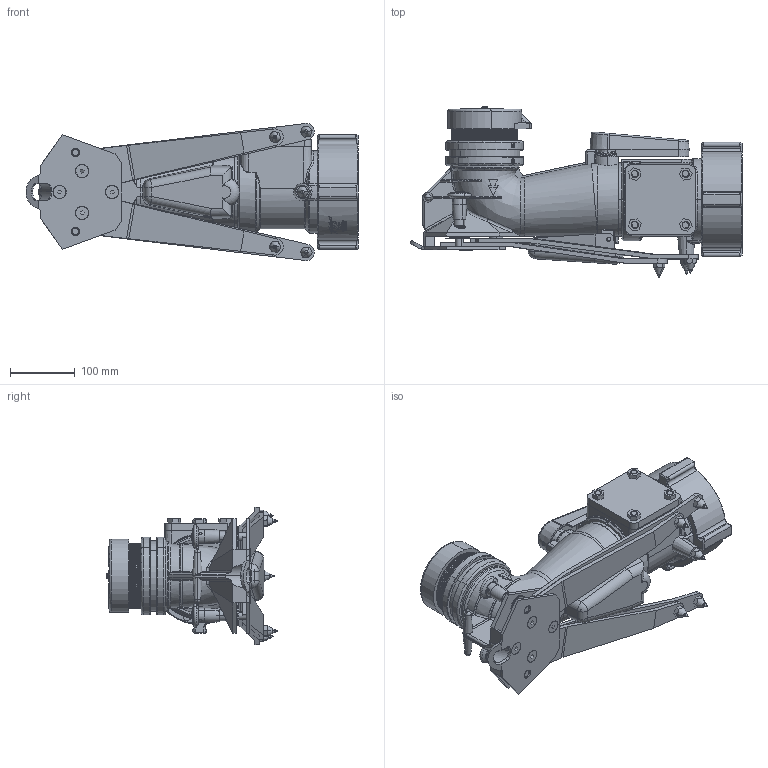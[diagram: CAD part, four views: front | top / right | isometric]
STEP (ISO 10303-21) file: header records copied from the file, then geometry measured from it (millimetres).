
FILE_DESCRIPTION (( 'STEP AP203' ), '1' );
FILE_NAME ('XFH-1NP.step', '2014-05-13T19:45:05', ( 'user' ), ( '' ), 'SwSTEP 2.0', 'SolidWorks 2012', '' );
FILE_SCHEMA (( 'CONFIG_CONTROL_DESIGN' ));
Length unit declared in the file: inch
Products named in the file (1): XFH-1NP
Bounding box: 513.45 x 264.44 x 212.13 mm (x, y, z)
Surface area: 717021 mm2 (no closed solid volume)
Topology: 0 solids, 117 shells, 1697 faces, 8271 edges, 6553 vertices
Faces by surface type: plane 778, cylinder 432, cone 189, bspline 162, torus 110, sphere 26
Entity records: 127402 total; most frequent: CARTESIAN_POINT 71308, ORIENTED_EDGE 11531, DIRECTION 8825, EDGE_CURVE 8247, VERTEX_POINT 6544, B_SPLINE_CURVE_WITH_KNOTS 3570, AXIS2_PLACEMENT_3D 3055, LINE 2715
